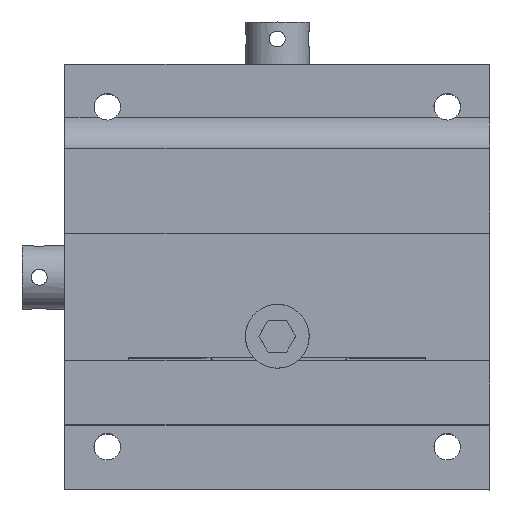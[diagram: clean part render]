
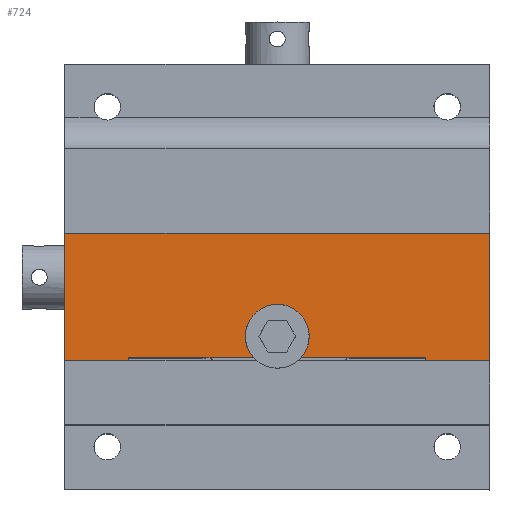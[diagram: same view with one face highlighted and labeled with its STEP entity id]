
A CAD part, top view. The second image highlights one B-rep face of the part: STEP entity #724.
In plain terms, the highlighted planar face has unit normal (0, 0, 1).
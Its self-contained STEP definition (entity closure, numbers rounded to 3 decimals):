
#724 = ADVANCED_FACE( '', ( #1401 ), #1402, .T. );
#1401 = FACE_OUTER_BOUND( '', #2273, .T. );
#1402 = PLANE( '', #2274 );
#2273 = EDGE_LOOP( '', ( #4294, #4295, #4296, #4297, #4298, #4299, #4300, #4301, #4302, #4303, #4304, #4305, #4306 ) );
#2274 = AXIS2_PLACEMENT_3D( '', #4307, #4308, #4309 );
#4294 = ORIENTED_EDGE( '', *, *, #5652, .F. );
#4295 = ORIENTED_EDGE( '', *, *, #5633, .F. );
#4296 = ORIENTED_EDGE( '', *, *, #5647, .F. );
#4297 = ORIENTED_EDGE( '', *, *, #5681, .T. );
#4298 = ORIENTED_EDGE( '', *, *, #5678, .F. );
#4299 = ORIENTED_EDGE( '', *, *, #5682, .T. );
#4300 = ORIENTED_EDGE( '', *, *, #5676, .T. );
#4301 = ORIENTED_EDGE( '', *, *, #5624, .T. );
#4302 = ORIENTED_EDGE( '', *, *, #5683, .T. );
#4303 = ORIENTED_EDGE( '', *, *, #5684, .F. );
#4304 = ORIENTED_EDGE( '', *, *, #5685, .T. );
#4305 = ORIENTED_EDGE( '', *, *, #5686, .T. );
#4306 = ORIENTED_EDGE( '', *, *, #5687, .T. );
#4307 = CARTESIAN_POINT( '', ( 0., 4., 96. ) );
#4308 = DIRECTION( '', ( 0., 0., 1. ) );
#4309 = DIRECTION( '', ( 0., 1., 0. ) );
#5624 = EDGE_CURVE( '', #6776, #6774, #6777, .T. );
#5633 = EDGE_CURVE( '', #6790, #6792, #6793, .T. );
#5647 = EDGE_CURVE( '', #6817, #6790, #6819, .T. );
#5652 = EDGE_CURVE( '', #6792, #6828, #6829, .T. );
#5676 = EDGE_CURVE( '', #6868, #6776, #6869, .T. );
#5678 = EDGE_CURVE( '', #6871, #6872, #6873, .T. );
#5681 = EDGE_CURVE( '', #6817, #6872, #6876, .T. );
#5682 = EDGE_CURVE( '', #6871, #6868, #6877, .T. );
#5683 = EDGE_CURVE( '', #6774, #6878, #6879, .T. );
#5684 = EDGE_CURVE( '', #6880, #6878, #6881, .T. );
#5685 = EDGE_CURVE( '', #6880, #6882, #6883, .T. );
#5686 = EDGE_CURVE( '', #6882, #6884, #6885, .F. );
#5687 = EDGE_CURVE( '', #6884, #6828, #6886, .F. );
#6774 = VERTEX_POINT( '', #8765 );
#6776 = VERTEX_POINT( '', #8768 );
#6777 = LINE( '', #8769, #8770 );
#6790 = VERTEX_POINT( '', #8787 );
#6792 = VERTEX_POINT( '', #8790 );
#6793 = LINE( '', #8791, #8792 );
#6817 = VERTEX_POINT( '', #8824 );
#6819 = LINE( '', #8827, #8828 );
#6828 = VERTEX_POINT( '', #8841 );
#6829 = LINE( '', #8842, #8843 );
#6868 = VERTEX_POINT( '', #8905 );
#6869 = LINE( '', #8906, #8907 );
#6871 = VERTEX_POINT( '', #8910 );
#6872 = VERTEX_POINT( '', #8911 );
#6873 = LINE( '', #8912, #8913 );
#6876 = LINE( '', #8918, #8919 );
#6877 = LINE( '', #8920, #8921 );
#6878 = VERTEX_POINT( '', #8922 );
#6879 = LINE( '', #8923, #8924 );
#6880 = VERTEX_POINT( '', #8925 );
#6881 = LINE( '', #8926, #8927 );
#6882 = VERTEX_POINT( '', #8928 );
#6883 = LINE( '', #8929, #8930 );
#6884 = VERTEX_POINT( '', #8931 );
#6885 = CIRCLE( '', #8932, 1.5 );
#6886 = CIRCLE( '', #8933, 1.5 );
#8765 = CARTESIAN_POINT( '', ( -14., -8., 96. ) );
#8768 = CARTESIAN_POINT( '', ( -20., -8., 96. ) );
#8769 = CARTESIAN_POINT( '', ( 0., -8., 96. ) );
#8770 = VECTOR( '', #10430, 1000. );
#8787 = CARTESIAN_POINT( '', ( 14., -7.7, 96. ) );
#8790 = CARTESIAN_POINT( '', ( 1.5, -7.7, 96. ) );
#8791 = CARTESIAN_POINT( '', ( 14., -7.7, 96. ) );
#8792 = VECTOR( '', #10445, 1000. );
#8824 = CARTESIAN_POINT( '', ( 14., -8., 96. ) );
#8827 = CARTESIAN_POINT( '', ( 14., -8.3, 96. ) );
#8828 = VECTOR( '', #10467, 1000. );
#8841 = CARTESIAN_POINT( '', ( 1.5, -4.4, 96. ) );
#8842 = CARTESIAN_POINT( '', ( 1.5, -7.7, 96. ) );
#8843 = VECTOR( '', #10472, 1000. );
#8905 = CARTESIAN_POINT( '', ( -20., 4., 96. ) );
#8906 = CARTESIAN_POINT( '', ( -20., 4., 96. ) );
#8907 = VECTOR( '', #10496, 1000. );
#8910 = CARTESIAN_POINT( '', ( 20., 4., 96. ) );
#8911 = CARTESIAN_POINT( '', ( 20., -8., 96. ) );
#8912 = CARTESIAN_POINT( '', ( 20., 4., 96. ) );
#8913 = VECTOR( '', #10498, 1000. );
#8918 = CARTESIAN_POINT( '', ( 0., -8., 96. ) );
#8919 = VECTOR( '', #10501, 1000. );
#8920 = CARTESIAN_POINT( '', ( 0., 4., 96. ) );
#8921 = VECTOR( '', #10502, 1000. );
#8922 = CARTESIAN_POINT( '', ( -14., -7.7, 96. ) );
#8923 = CARTESIAN_POINT( '', ( -14., -8.3, 96. ) );
#8924 = VECTOR( '', #10503, 1000. );
#8925 = CARTESIAN_POINT( '', ( -1.5, -7.7, 96. ) );
#8926 = CARTESIAN_POINT( '', ( 14., -7.7, 96. ) );
#8927 = VECTOR( '', #10504, 1000. );
#8928 = CARTESIAN_POINT( '', ( -1.5, -4.4, 96. ) );
#8929 = CARTESIAN_POINT( '', ( -1.5, -7.7, 96. ) );
#8930 = VECTOR( '', #10505, 1000. );
#8931 = CARTESIAN_POINT( '', ( 0., -2.9, 96. ) );
#8932 = AXIS2_PLACEMENT_3D( '', #10506, #10507, #10508 );
#8933 = AXIS2_PLACEMENT_3D( '', #10509, #10510, #10511 );
#10430 = DIRECTION( '', ( 1., 0., 0. ) );
#10445 = DIRECTION( '', ( -1., 0., 0. ) );
#10467 = DIRECTION( '', ( 0., 1., 0. ) );
#10472 = DIRECTION( '', ( 0., 1., 0. ) );
#10496 = DIRECTION( '', ( 0., -1., 0. ) );
#10498 = DIRECTION( '', ( 0., -1., 0. ) );
#10501 = DIRECTION( '', ( 1., 0., 0. ) );
#10502 = DIRECTION( '', ( -1., 0., 0. ) );
#10503 = DIRECTION( '', ( 0., 1., 0. ) );
#10504 = DIRECTION( '', ( -1., 0., 0. ) );
#10505 = DIRECTION( '', ( 0., 1., 0. ) );
#10506 = CARTESIAN_POINT( '', ( 0., -4.4, 96. ) );
#10507 = DIRECTION( '', ( 0., 0., 1. ) );
#10508 = DIRECTION( '', ( 0., 1., 0. ) );
#10509 = CARTESIAN_POINT( '', ( 0., -4.4, 96. ) );
#10510 = DIRECTION( '', ( 0., 0., 1. ) );
#10511 = DIRECTION( '', ( 0., 1., 0. ) );
